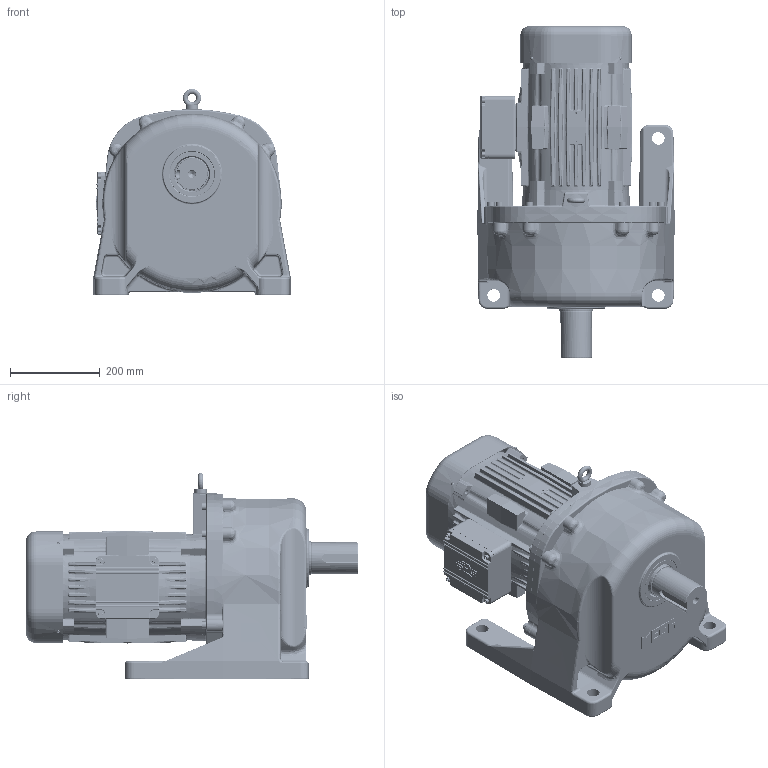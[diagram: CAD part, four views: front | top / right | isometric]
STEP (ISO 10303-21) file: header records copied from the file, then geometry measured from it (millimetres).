
FILE_DESCRIPTION(/* description */ (''),/* implementation_level */ '2;1');
FILE_NAME(/* name */ 'Z:\동력 3D 파일\PML270_7.5kW_3D.stp',/* time_stamp */ '2021-11-30T16:42:54+09:00',/* author */ ('jaebok'),/* organization */ (''),/* preprocessor_version */ 'ST-DEVELOPER v18.1',/* originating_system */ 'Autodesk Inventor 2022',/* authorisation */ '');
FILE_SCHEMA (('AUTOMOTIVE_DESIGN { 1 0 10303 214 3 1 1 }'));
Length unit declared in the file: millimetre
Products named in the file (1): 부품29
Bounding box: 440 x 740 x 459.99 mm (x, y, z)
Volume: 17497413.5 mm3; surface area: 2694514.8 mm2
Topology: 12 solids, 22 shells, 5402 faces, 13254 edges, 7830 vertices
Faces by surface type: bspline 1729, plane 1349, cylinder 1335, torus 456, sphere 280, cone 253
Full cylindrical faces by diameter (mm): 3.242 x4, 4.134 x4, 4.917 x9, 5 x16, 6 x9, 6.5 x8, 6.647 x9, 7 x4, 8 x4, 9.5 x4, 10 x17, 12 x9, 13.2 x1, 13.835 x9, 15 x1, 16 x9, 17 x8, 20 x1, 28 x5, 32 x1, 34 x2, 50 x1, 55 x1, 60 x2, 62 x1, 70 x1, 72 x1, 75 x3, 80 x2, 81 x1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
Entity records: 214933 total; most frequent: CARTESIAN_POINT 93452, ORIENTED_EDGE 25980, DIRECTION 21668, EDGE_CURVE 12990, AXIS2_PLACEMENT_3D 8557, VERTEX_POINT 7832, EDGE_LOOP 5716, FACE_OUTER_BOUND 5402
